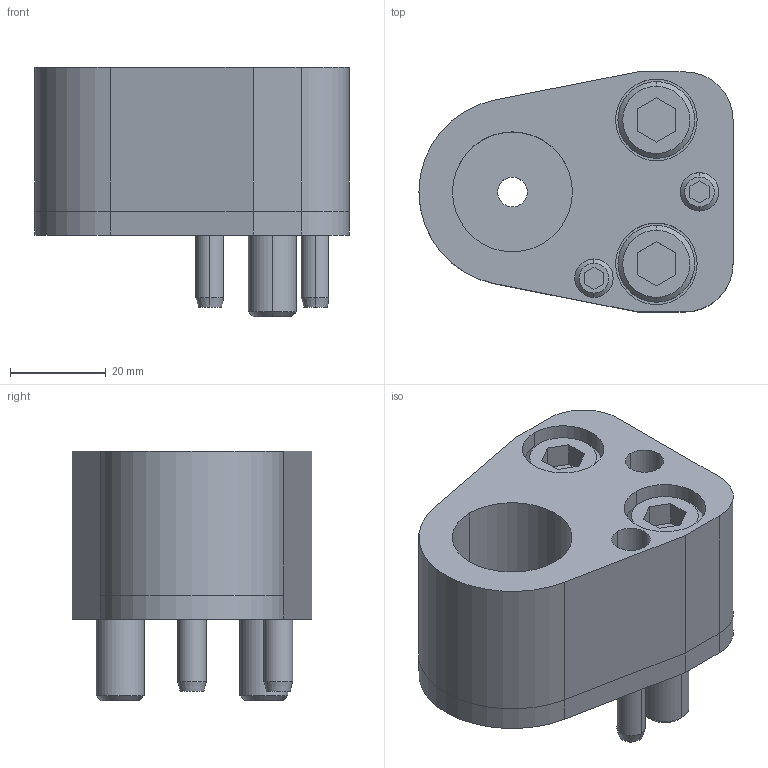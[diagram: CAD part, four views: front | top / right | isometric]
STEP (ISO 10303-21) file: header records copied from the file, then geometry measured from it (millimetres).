
FILE_DESCRIPTION(/* description */ (''),/* implementation_level */ '2;1');
FILE_NAME(/* name */ '3d_cp-ap25_02854_r00.stp',/* time_stamp */ '2011-01-10T14:16:29+09:00',/* author */ ('MISUMI'),/* organization */ (''),/* preprocessor_version */ 'ST-DEVELOPER v11',/* originating_system */ 'UGS - NX 5.0',/* authorisation */ '');
FILE_SCHEMA (('CONFIG_CONTROL_DESIGN'));
Length unit declared in the file: millimetre
Products named in the file (1): 3d_cp-ap25_02854_r00
Bounding box: 65.5 x 50 x 52 mm (x, y, z)
Volume: 78737.9 mm3; surface area: 29131.4 mm2
Topology: 8 solids, 8 shells, 152 faces, 340 edges, 218 vertices
Faces by surface type: plane 66, cylinder 60, cone 26
Entity records: 4397 total; most frequent: DIRECTION 788, CARTESIAN_POINT 762, ORIENTED_EDGE 680, EDGE_CURVE 340, AXIS2_PLACEMENT_3D 299, VERTEX_POINT 218, LINE 190, VECTOR 190
